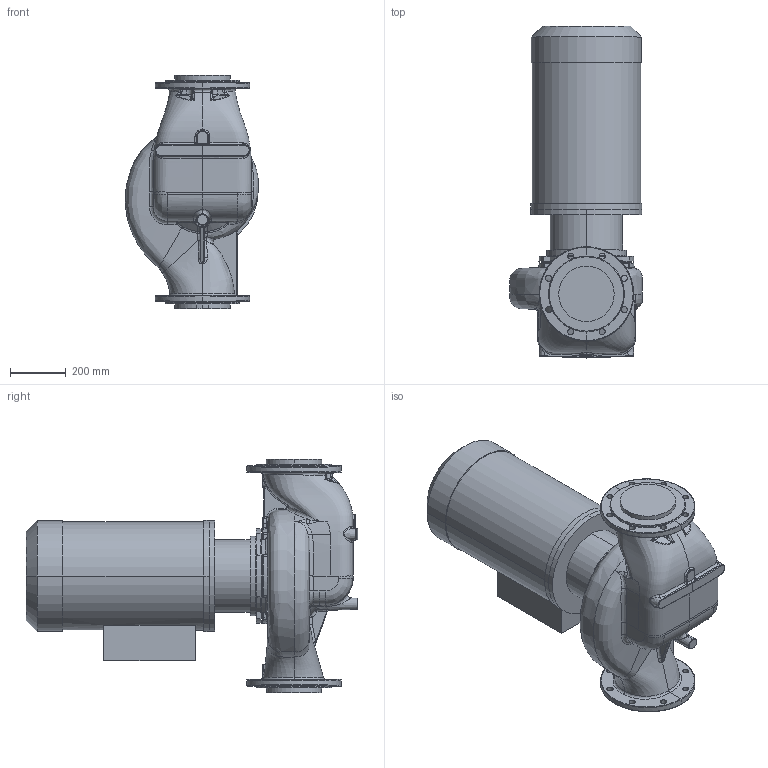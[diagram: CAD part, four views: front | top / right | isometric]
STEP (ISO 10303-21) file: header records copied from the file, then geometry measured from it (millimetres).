
FILE_DESCRIPTION (( 'STEP AP214' ), '1' );
FILE_NAME ('KRL 200-250-4-30.STEP', '2026-04-03T13:13:43', ( '' ), ( '' ), 'SwSTEP 2.0', 'SolidWorks 2016', '' );
FILE_SCHEMA (( 'AUTOMOTIVE_DESIGN' ));
Length unit declared in the file: millimetre
Products named in the file (1): KRL 200-250-4-30
Bounding box: 479.47 x 1195.8 x 840 mm (x, y, z)
Volume: 163955487.2 mm3; surface area: 3195744 mm2
Topology: 9 solids, 9 shells, 613 faces, 1510 edges, 915 vertices
Faces by surface type: bspline 287, cylinder 130, plane 126, cone 40, torus 24, sphere 6
Entity records: 66511 total; most frequent: CARTESIAN_POINT 47857, ORIENTED_EDGE 2974, DIRECTION 1744, EDGE_CURVE 1487, VERTEX_POINT 915, AXIS2_PLACEMENT_3D 735, EDGE_LOOP 668, B_SPLINE_CURVE_WITH_KNOTS 657
